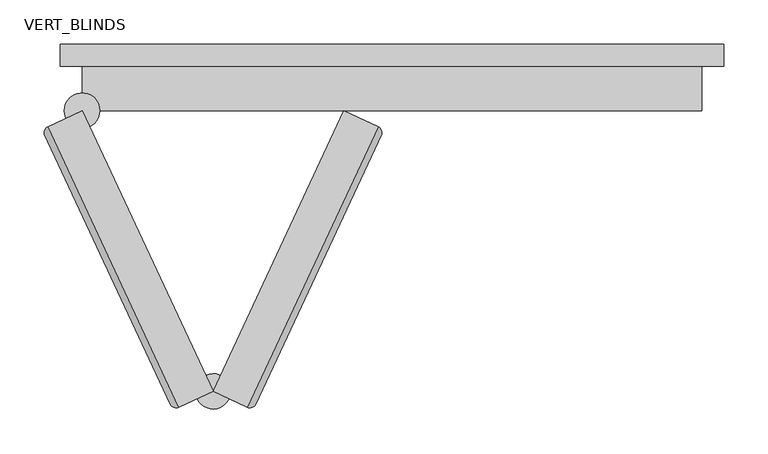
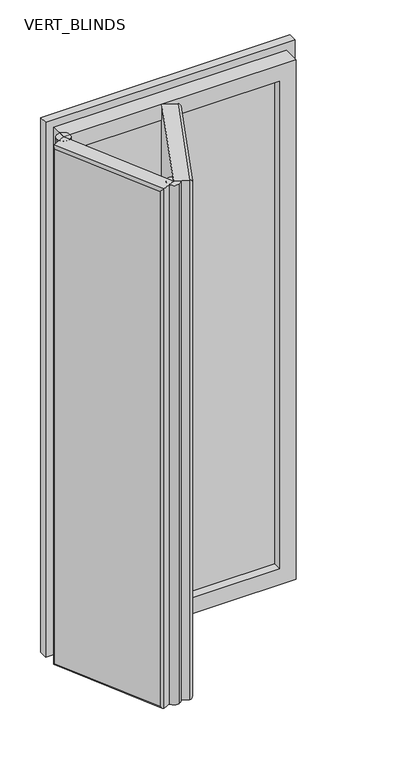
"""IFC4 building model written with IfcOpenShell, lengths in millimetres: plate geometry, CURTAIN PANEL VODA STYLE BIFOLDING : VERT_BLINDS."""

from ifc_helpers import new_model, si_unit, point, frame, frame_2d, origin, place, context, project, spatial, polyline, circle_curve, ellipse_curve, trimmed, segment, composite_curve, outline, extrude, faceted_brep, source, transform, mapped, element, save
from ifc_brep_helpers import plane_surface, cylinder_surface, advanced_brep


def vert_blinds_c780c9f2(model_context):
    return source(origin(), model_context, "Body", "SolidModel", [
        advanced_brep(
        [(-350.0, -50.0, 1675.0), (-388.5180809, -67.9612761, 1675.0), (-240.6016893, -385.1690016, 1675.0), (-202.0836084, -367.2077255, 1675.0), (-202.0836084, -367.2077255, 25.0), (-240.6016893, -385.1690016, 25.0), (-388.5180809, -67.9612761, 25.0), (-350.0, -50.0, 25.0), (-392.1457524, -77.9282215, 32.5), (-250.5686347, -381.5413301, 32.5), (-250.5686347, -381.5413301, 1667.5), (-392.1457524, -77.9282215, 1667.5)],
        [
            (0, 1),
            (1, 2),
            (2, 3),
            (3, 0),
            (4, 5),
            (5, 6),
            (6, 7),
            (7, 4),
            (2, 5),
            (4, 3),
            (8, 9),
            (9, 10),
            (10, 11),
            (11, 8),
            (6, 1),
            (0, 7),
            (11, 1, ellipse_curve(frame((-385.348444, -74.7585845, 1667.5), z_axis=(-0.2988362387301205, 0.6408563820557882, -0.7071067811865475), x_axis=(0.2988362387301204, -0.6408563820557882, -0.7071067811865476)), 10.6066017, 7.5)),
            (6, 8, ellipse_curve(frame((-385.348444, -74.7585845, 32.5), z_axis=(-0.29883623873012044, 0.6408563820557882, 0.7071067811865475), x_axis=(-0.29883623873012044, 0.640856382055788, -0.7071067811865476)), 10.6066017, 7.5)),
            (5, 9, ellipse_curve(frame((-243.7713263, -378.3716932, 32.5), z_axis=(-0.2988362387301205, 0.6408563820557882, -0.7071067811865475), x_axis=(0.29883623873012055, -0.6408563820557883, -0.7071067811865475)), 10.6066017, 7.5)),
            (2, 10, ellipse_curve(frame((-243.7713263, -378.3716932, 1667.5), z_axis=(0.2988362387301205, -0.6408563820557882, -0.7071067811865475), x_axis=(0.29883623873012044, -0.6408563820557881, 0.7071067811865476)), 10.6066017, 7.5)),
        ],
        [
            plane_surface(frame((-247.3989977, -388.3386385, 1675.0), z_axis=(0.0, 0.0, 1.0), x_axis=(-0.9063077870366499, -0.42261826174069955, 0.0))),
            plane_surface(frame((-247.3989977, -388.3386385, 25.0), z_axis=(0.0, 0.0, -1.0), x_axis=(0.9063077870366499, 0.42261826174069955, 0.0))),
            plane_surface(frame((-202.0836084, -367.2077255, 1675.0), z_axis=(0.42261826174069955, -0.9063077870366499, 0.0), x_axis=(0.0, 0.0, -1.0))),
            plane_surface(frame((-247.3989977, -388.3386385, 1675.0), z_axis=(-0.9063077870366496, -0.42261826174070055, 0.0), x_axis=(0.0, 0.0, -1.0))),
            plane_surface(frame((-395.3153894, -71.1309131, 1675.0), z_axis=(-0.4226182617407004, 0.9063077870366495, 0.0), x_axis=(0.0, 0.0, -1.0))),
            plane_surface(frame((-350.0, -50.0, 1675.0), z_axis=(0.9063077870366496, 0.4226182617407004, 0.0), x_axis=(0.0, 0.0, -1.0))),
            cylinder_surface(frame((-385.348444, -74.7585845, 1675.0), z_axis=(0.0, 0.0, -1.0), x_axis=(0.9063077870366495, 0.4226182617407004, 0.0)), 7.5),
            cylinder_surface(frame((-388.5180809, -67.9612761, 32.5), z_axis=(0.4226182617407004, -0.9063077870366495, 0.0), x_axis=(0.9063077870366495, 0.4226182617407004, 0.0)), 7.5),
            cylinder_surface(frame((-243.7713263, -378.3716932, 25.0), z_axis=(0.0, 0.0, 1.0), x_axis=(0.9063077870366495, 0.42261826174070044, 0.0)), 7.5),
            cylinder_surface(frame((-240.6016893, -385.1690016, 1667.5), z_axis=(-0.4226182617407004, 0.9063077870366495, 0.0), x_axis=(0.9063077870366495, 0.4226182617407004, 0.0)), 7.5),
        ],
        [
            (0, [[1, 2, 3, 4]]),
            (1, [[5, 6, 7, 8]]),
            (2, [[-3, 9, -5, 10]]),
            (3, [[11, 12, 13, 14]]),
            (4, [[-7, 15, -1, 16]]),
            (5, [[-10, -8, -16, -4]]),
            (6, [[-14, 17, -15, 18]]),
            (7, [[-6, 19, -11, -18]]),
            (8, [[-9, 20, -12, -19]]),
            (9, [[-13, -20, -2, -17]]),
        ],
    ),
        advanced_brep(
        [(-202.0836084, -367.2077255, 1675.0), (-163.5655274, -385.1690016, 1675.0), (-15.6491358, -67.9612761, 1675.0), (-54.1672168, -50.0, 1675.0), (-54.1672168, -50.0, 25.0), (-15.6491358, -67.9612761, 25.0), (-163.5655274, -385.1690016, 25.0), (-202.0836084, -367.2077255, 25.0), (-153.5985821, -381.5413301, 32.5), (-12.0214644, -77.9282215, 32.5), (-12.0214644, -77.9282215, 1667.5), (-153.5985821, -381.5413301, 1667.5)],
        [
            (0, 1),
            (1, 2),
            (2, 3),
            (3, 0),
            (4, 5),
            (5, 6),
            (6, 7),
            (7, 4),
            (2, 5),
            (4, 3),
            (8, 9),
            (9, 10),
            (10, 11),
            (11, 8),
            (6, 1),
            (0, 7),
            (11, 1, ellipse_curve(frame((-160.3958905, -378.3716932, 1667.5), z_axis=(-0.29883623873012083, -0.6408563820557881, -0.7071067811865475), x_axis=(0.2988362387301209, 0.640856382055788, -0.7071067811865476)), 10.6066017, 7.5)),
            (6, 8, ellipse_curve(frame((-160.3958905, -378.3716932, 32.5), z_axis=(-0.2988362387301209, -0.640856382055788, 0.7071067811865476), x_axis=(-0.29883623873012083, -0.6408563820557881, -0.7071067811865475)), 10.6066017, 7.5)),
            (5, 9, ellipse_curve(frame((-18.8187728, -74.7585845, 32.5), z_axis=(-0.2988362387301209, -0.6408563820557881, -0.7071067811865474), x_axis=(0.2988362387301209, 0.640856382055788, -0.7071067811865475)), 10.6066017, 7.5)),
            (2, 10, ellipse_curve(frame((-18.8187728, -74.7585845, 1667.5), z_axis=(0.2988362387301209, 0.640856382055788, -0.7071067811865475), x_axis=(0.2988362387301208, 0.640856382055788, 0.7071067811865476)), 10.6066017, 7.5)),
        ],
        [
            plane_surface(frame((-8.8518274, -71.1309131, 1675.0), z_axis=(0.0, 0.0, 1.0), x_axis=(0.9063077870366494, -0.4226182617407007, 0.0))),
            plane_surface(frame((-8.8518274, -71.1309131, 25.0), z_axis=(0.0, 0.0, -1.0), x_axis=(-0.9063077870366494, 0.4226182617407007, 0.0))),
            plane_surface(frame((-54.1672168, -50.0, 1675.0), z_axis=(0.4226182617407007, 0.9063077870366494, 0.0), x_axis=(0.0, 0.0, -1.0))),
            plane_surface(frame((-8.8518274, -71.1309131, 1675.0), z_axis=(0.9063077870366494, -0.42261826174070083, 0.0), x_axis=(0.0, 0.0, -1.0))),
            plane_surface(frame((-156.768219, -388.3386385, 1675.0), z_axis=(-0.4226182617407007, -0.9063077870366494, 0.0), x_axis=(0.0, 0.0, -1.0))),
            plane_surface(frame((-202.0836084, -367.2077255, 1675.0), z_axis=(-0.9063077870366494, 0.42261826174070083, 0.0), x_axis=(0.0, 0.0, -1.0))),
            cylinder_surface(frame((-160.3958905, -378.3716932, 1675.0), z_axis=(0.0, 0.0, -1.0), x_axis=(-0.9063077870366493, 0.4226182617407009, 0.0)), 7.5),
            cylinder_surface(frame((-163.5655274, -385.1690016, 32.5), z_axis=(0.42261826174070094, 0.9063077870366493, 0.0), x_axis=(-0.9063077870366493, 0.42261826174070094, 0.0)), 7.5),
            cylinder_surface(frame((-18.8187728, -74.7585845, 25.0), z_axis=(0.0, 0.0, 1.0), x_axis=(-0.9063077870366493, 0.4226182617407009, 0.0)), 7.5),
            cylinder_surface(frame((-15.6491358, -67.9612761, 1667.5), z_axis=(-0.42261826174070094, -0.9063077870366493, 0.0), x_axis=(-0.9063077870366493, 0.42261826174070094, 0.0)), 7.5),
        ],
        [
            (0, [[1, 2, 3, 4]]),
            (1, [[5, 6, 7, 8]]),
            (2, [[-3, 9, -5, 10]]),
            (3, [[11, 12, 13, 14]]),
            (4, [[-7, 15, -1, 16]]),
            (5, [[-10, -8, -16, -4]]),
            (6, [[-14, 17, -15, 18]]),
            (7, [[-6, 19, -11, -18]]),
            (8, [[-9, 20, -12, -19]]),
            (9, [[-13, -20, -2, -17]]),
        ],
    ),
        extrude(outline(composite_curve([segment(trimmed(circle_curve(frame_2d((-350.0, -50.0)), 20.0), [point((-370.0, -50.0))], [point((-330.0, -50.0))], False, "CARTESIAN"), True, "CONTINUOUS"), segment(trimmed(circle_curve(frame_2d((-350.0, -50.0)), 20.0), [point((-330.0, -50.0))], [point((-370.0, -50.0))], False, "CARTESIAN"), True, "CONTINUOUS")], self_intersect=False)), frame((0.0, 0.0, 25.0), z_axis=(0.0, 0.0, 1.0), x_axis=(1.0, 0.0, 0.0)), (0.0, 0.0, 1.0), 1650.0),
        extrude(outline(composite_curve([segment(trimmed(circle_curve(frame_2d((-202.0836084, -367.2077255)), 20.0), [point((-210.5359736, -349.0815697))], [point((-193.6312432, -385.3338812))], False, "CARTESIAN"), True, "CONTINUOUS"), segment(trimmed(circle_curve(frame_2d((-202.0836084, -367.2077255)), 20.0), [point((-193.6312432, -385.3338812))], [point((-210.5359736, -349.0815697))], False, "CARTESIAN"), True, "CONTINUOUS")], self_intersect=False)), frame((0.0, 0.0, 25.0), z_axis=(0.0, 0.0, 1.0), x_axis=(1.0, 0.0, 0.0)), (0.0, 0.0, 1.0), 1650.0),
        extrude(outline(polyline([(-300.0, -24.0), (-300.0, 0.0), (300.0, 0.0), (300.0, -24.0), (-300.0, -24.0)])), frame((0.0, 0.0, 75.0), z_axis=(0.0, 0.0, 1.0), x_axis=(1.0, 0.0, 0.0)), (0.0, 0.0, 1.0), 1550.0),
        faceted_brep([(-300.0, -50.0, 1625.0), (-300.0, -50.0, 75.0), (-300.0, 25.0, 75.0), (-300.0, 25.0, 1625.0), (-375.0, 25.0, 1700.0), (-375.0, 25.0, 0.0), (-375.0, 0.0, 0.0), (-375.0, 0.0, 1700.0), (-350.0, 0.0, 1675.0), (-350.0, 0.0, 25.0), (-350.0, -50.0, 25.0), (-350.0, -50.0, 1675.0), (300.0, -50.0, 75.0), (300.0, 25.0, 75.0), (375.0, 25.0, 0.0), (375.0, 0.0, 0.0), (350.0, 0.0, 25.0), (350.0, -50.0, 25.0), (300.0, -50.0, 1625.0), (300.0, 25.0, 1625.0), (375.0, 25.0, 1700.0), (375.0, 0.0, 1700.0), (350.0, 0.0, 1675.0), (350.0, -50.0, 1675.0)], [[[0, 1, 2, 3]], [[4, 5, 6, 7]], [[8, 9, 10, 11]], [[1, 12, 13, 2]], [[5, 14, 15, 6]], [[9, 16, 17, 10]], [[12, 18, 19, 13]], [[14, 20, 21, 15]], [[16, 22, 23, 17]], [[11, 10, 17, 23], [1, 0, 18, 12]], [[18, 0, 3, 19]], [[5, 4, 20, 14], [3, 2, 13, 19]], [[20, 4, 7, 21]], [[7, 6, 15, 21], [9, 8, 22, 16]], [[22, 8, 11, 23]]]),
    ])


if __name__ == "__main__":
    model = new_model("IFC4")
    model_context = context("Model", 3, world=origin())
    ifc_project = project(units=[si_unit("LENGTHUNIT", "METRE", prefix="MILLI")], contexts=[model_context])
    site = spatial("IfcSite", under=ifc_project)
    building = spatial("IfcBuilding", under=site)
    placement = place(None, origin())
    vert_blinds_shape = vert_blinds_c780c9f2(model_context)
    element("IfcPlate", 1, ObjectType="CURTAIN PANEL VODA STYLE BIFOLDING : VERT_BLINDS", at=placement, inside=building, context=model_context, shape_type="MappedRepresentation", body=[
        mapped(vert_blinds_shape, transform((0.0, 0.0, 0.0), x_axis=(1.0, 0.0, 0.0), y_axis=(0.0, 1.0, 0.0), z_axis=(0.0, 0.0, 1.0))),
    ])
    save(model, "model.ifc")
